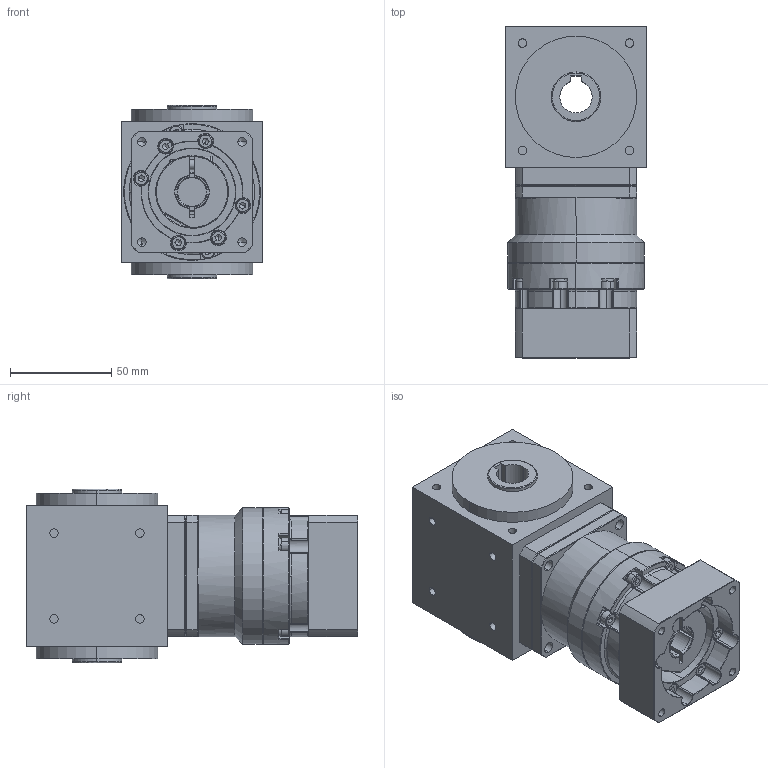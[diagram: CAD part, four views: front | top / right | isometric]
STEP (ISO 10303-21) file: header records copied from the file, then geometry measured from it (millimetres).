
FILE_DESCRIPTION (( 'STEP AP203' ), '1' );
FILE_NAME ('AAW070AS-L1-CR 14-50-70-M5.STEP', '2024-12-23T08:30:02', ( '' ), ( '' ), 'SwSTEP 2.0', 'SolidWorks 2021', '' );
FILE_SCHEMA (( 'CONFIG_CONTROL_DESIGN' ));
Length unit declared in the file: millimetre
Products named in the file (3): AAW070AS-L1-CR 14-50-70-M5; VRB-060-L1-S2-P1 14-50-70-M5
Assembly tree (2 placements, depth 2):
  AAW070AS-L1-CR 14-50-70-M5
    AAW070AS-L1-CR 14-50-70-M5
    VRB-060-L1-S2-P1 14-50-70-M5
Bounding box: 70 x 164 x 86 mm (x, y, z)
Volume: 607168.4 mm3; surface area: 102385.7 mm2
Topology: 32 solids, 32 shells, 1034 faces, 2511 edges, 1563 vertices
Faces by surface type: plane 413, cylinder 367, cone 188, torus 54, bspline 12
Entity records: 31578 total; most frequent: CARTESIAN_POINT 6832, DIRECTION 5422, ORIENTED_EDGE 4926, EDGE_CURVE 2463, AXIS2_PLACEMENT_3D 2164, VERTEX_POINT 1563, EDGE_LOOP 1148, CIRCLE 1137
